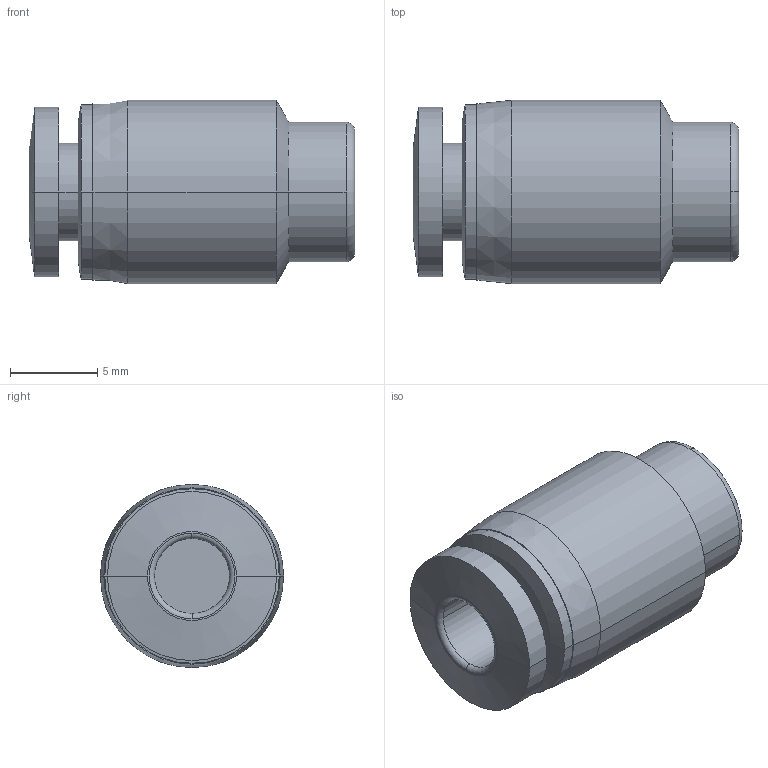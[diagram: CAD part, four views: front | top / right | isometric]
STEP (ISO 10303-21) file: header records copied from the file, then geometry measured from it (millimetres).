
FILE_DESCRIPTION (( 'STEP AP203' ), '1' );
FILE_NAME ('FC04-00.STEP', '2020-05-13T10:09:26', ( '' ), ( '' ), 'SwSTEP 2.0', 'SolidWorks 2019', '' );
FILE_SCHEMA (( 'CONFIG_CONTROL_DESIGN' ));
Length unit declared in the file: millimetre
Products named in the file (1): FC04-00
Bounding box: 18.65 x 10.5 x 10.5 mm (x, y, z)
Volume: 1125.7 mm3; surface area: 994.8 mm2
Topology: 1 solids, 1 shells, 30 faces, 62 edges, 38 vertices
Faces by surface type: cylinder 12, cone 8, plane 6, torus 4
Entity records: 885 total; most frequent: DIRECTION 166, CARTESIAN_POINT 131, ORIENTED_EDGE 124, AXIS2_PLACEMENT_3D 73, EDGE_CURVE 62, CIRCLE 42, VERTEX_POINT 38, EDGE_LOOP 34
